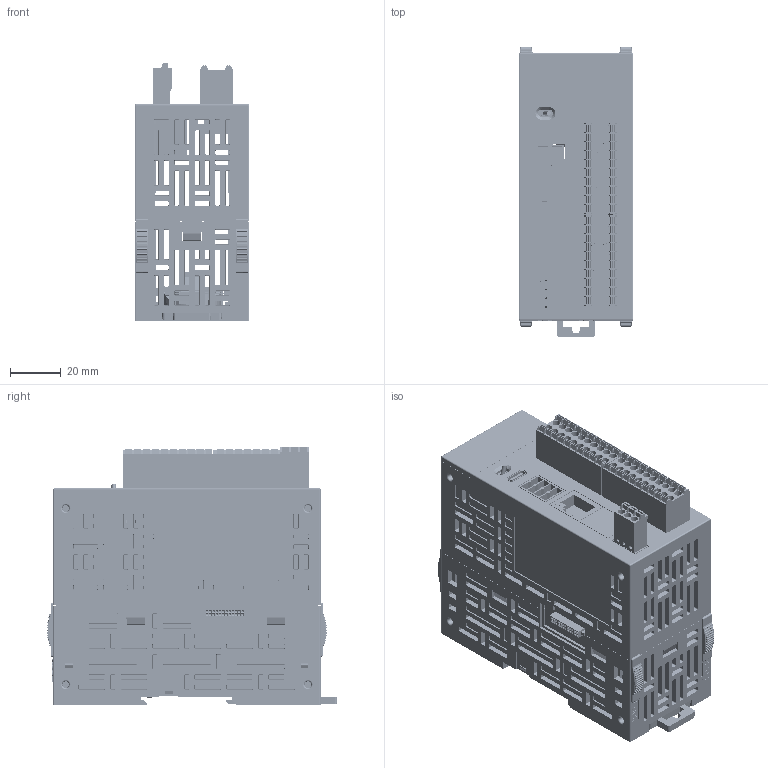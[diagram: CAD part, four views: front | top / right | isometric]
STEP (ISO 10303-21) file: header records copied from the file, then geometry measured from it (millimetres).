
FILE_DESCRIPTION((''),'2;1');
FILE_NAME('SC2-C_ASM','2023-10-08T10:59:47',('Lenovo'),(''),'CREO PARAMETRIC BY PTC INC, 2020033','CREO PARAMETRIC BY PTC INC, 2020033','');
FILE_SCHEMA(('CONFIG_CONTROL_DESIGN'));
Products named in the file (27): SC2-C-COVER; MS2-32A4-BASE-105; MS2-32A4-PCB-U; OQ381-RIGHT-ANGLE; RJ45-HR913550A; 24PIN-CHAZUO; 4PIN-X2_1; TYPE-C-CE; CBT-0810XXF-52-14PIN; 50PIN-CHAZUO; DIAL-SWITCH_1; MS2-32A4-PCB-U_ASM; MS2-32A4-PCB-I; 50PIN-CHATOU; JIEXIANDUANZI-CHAZUO-10PIN; MS2-32A4-PCB-I_ASM; PCB-LED; LED; CBT-0810XXM-52-14PIN; PCB-LED_ASM; MS2-32A4-MKGDK; DIANCHIHE-165; KAKOU-105; MS2-32A4-JINGPIAN-105; TERMINAL-COMMON-2X10; WJ15EDGKN-3R5-XXP-3PIN; SC2-C_ASM
Assembly tree (68 placements, depth 3):
  SC2-C_ASM
    SC2-C-COVER
    MS2-32A4-BASE-105
    MS2-32A4-PCB-U_ASM
      MS2-32A4-PCB-U
      OQ381-RIGHT-ANGLE
      RJ45-HR913550A  x2
      24PIN-CHAZUO
      4PIN-X2_1
      TYPE-C-CE
      CBT-0810XXF-52-14PIN
      50PIN-CHAZUO
      DIAL-SWITCH_1
    MS2-32A4-PCB-I_ASM
      MS2-32A4-PCB-I
      50PIN-CHATOU
      24PIN-CHAZUO
      JIEXIANDUANZI-CHAZUO-10PIN  x2
    PCB-LED_ASM
      PCB-LED
      LED  x36
      CBT-0810XXM-52-14PIN
    MS2-32A4-MKGDK  x4
    DIANCHIHE-165
    KAKOU-105
    MS2-32A4-JINGPIAN-105
    TERMINAL-COMMON-2X10  x2
    WJ15EDGKN-3R5-XXP-3PIN
Bounding box: 45 x 113.94 x 101.2 mm (x, y, z)
Volume: 118694 mm3; surface area: 154264.8 mm2
Topology: 65 solids, 69 shells, 11967 faces, 31283 edges, 20285 vertices
Faces by surface type: plane 9666, cone 1169, cylinder 1000, extrusion 56, bspline 36, torus 32, sphere 8
Entity records: 293934 total; most frequent: CARTESIAN_POINT 55749, ORIENTED_EDGE 50258, DIRECTION 46250, EDGE_CURVE 25131, VECTOR 21274, LINE 21260, VERTEX_POINT 16289, AXIS2_PLACEMENT_3D 12488
